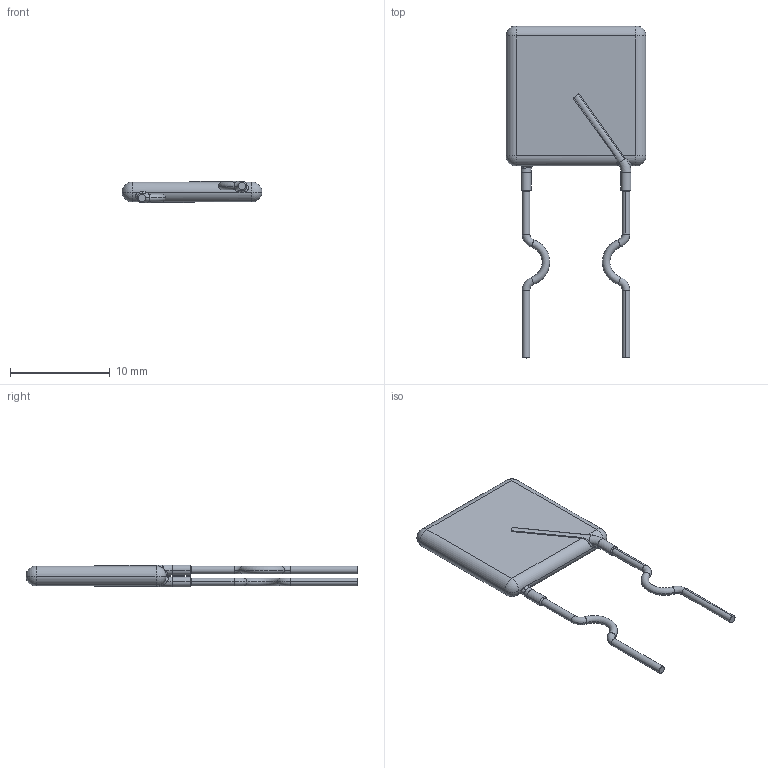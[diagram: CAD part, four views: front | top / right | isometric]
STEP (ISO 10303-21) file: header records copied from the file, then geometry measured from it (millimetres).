
FILE_DESCRIPTION (( 'STEP AP214' ), '1' );
FILE_NAME ('30R500UF.STEP', '2024-02-01T17:16:26', ( '' ), ( '' ), 'SwSTEP 2.0', 'SolidWorks 2022', '' );
FILE_SCHEMA (( 'AUTOMOTIVE_DESIGN' ));
Length unit declared in the file: millimetre
Products named in the file (1): 30R500UF
Bounding box: 14 x 33.2 x 2.2 mm (x, y, z)
Volume: 388.9 mm3; surface area: 555.3 mm2
Topology: 1 solids, 1 shells, 72 faces, 172 edges, 94 vertices
Faces by surface type: cylinder 28, torus 16, bspline 10, sphere 8, plane 6, cone 4
Entity records: 2560 total; most frequent: CARTESIAN_POINT 685, DIRECTION 364, ORIENTED_EDGE 328, EDGE_CURVE 164, AXIS2_PLACEMENT_3D 161, CIRCLE 98, VERTEX_POINT 94, FACE_OUTER_BOUND 72
